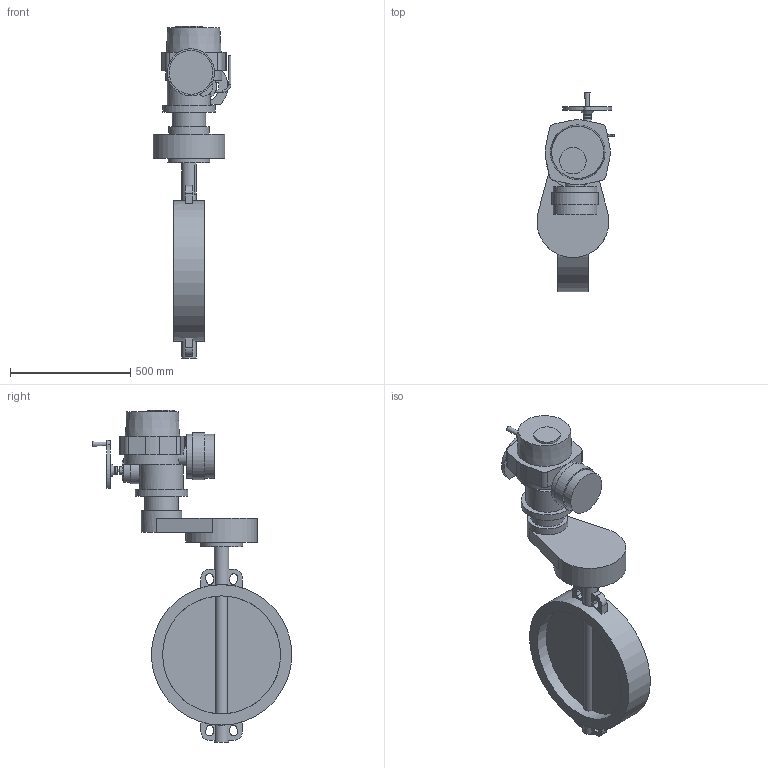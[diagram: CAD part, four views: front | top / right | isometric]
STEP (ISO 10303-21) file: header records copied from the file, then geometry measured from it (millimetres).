
FILE_DESCRIPTION(('STEP AP203'), '1');
FILE_NAME('青蜮铕 017W.ZS DN500+菹 QT.A300', '', ('UNSPECIFIED'), ('UNSPECIFIED'), 'ASCON STEP Converter 1.6', 'ASCON Math Kernel', '');
FILE_SCHEMA(('CONFIG_CONTROL_DESIGN'));
Length unit declared in the file: millimetre
Bounding box: 324.45 x 831.5 x 1383 mm (x, y, z)
Volume: 46308843.2 mm3; surface area: 2021221.6 mm2
Topology: 1 solids, 1 shells, 870 faces, 2417 edges, 1606 vertices
Faces by surface type: cylinder 622, plane 244, cone 3, torus 1
Full cylindrical faces by diameter (mm): 10 x2, 14 x12, 16 x1, 17.5 x4, 18 x4, 32 x2, 35 x1, 60 x2, 80 x2, 100 x1, 110 x1, 140 x1, 170 x1, 175 x1, 180 x1, 183 x2, 196 x1, 220 x1, 300 x1, 491.6 x2, 585 x1
Entity records: 36437 total; most frequent: CARTESIAN_POINT 6037, DIRECTION 5382, ORIENTED_EDGE 4738, EDGE_CURVE 2369, AXIS2_PLACEMENT_3D 2162, VERTEX_POINT 1606, CIRCLE 1291, LINE 1058
